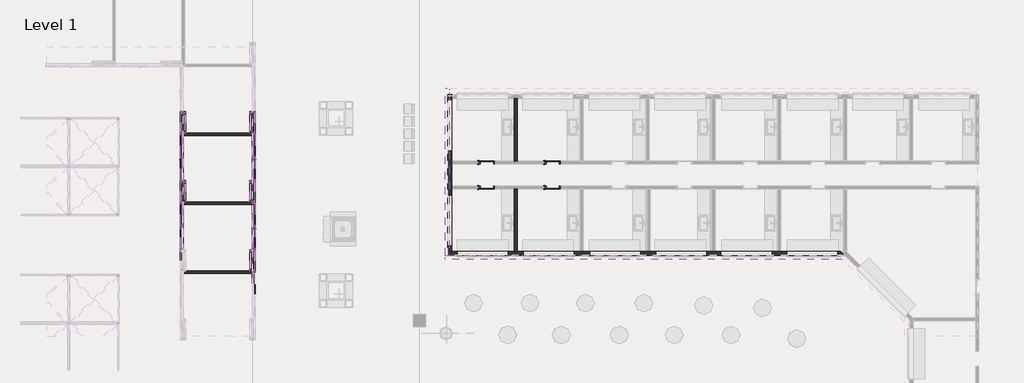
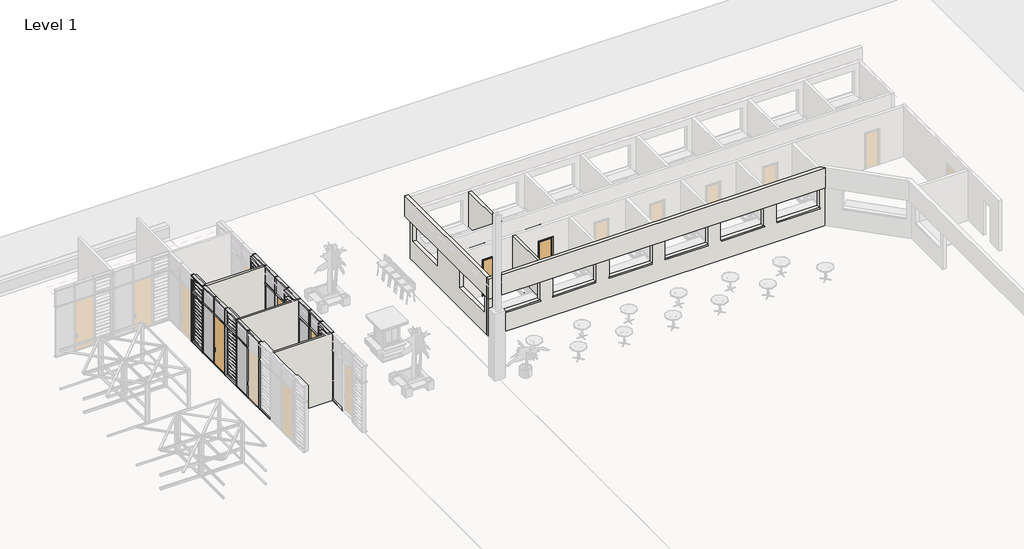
# One storey, part 11 of 32: 70 members, 21 plates, 9 walls, 7 doors.
"""IFC4 building model written with IfcOpenShell, lengths in millimetres."""

from ifc_helpers import new_model, si_unit, frame, origin, place, context, project, spatial, polyline, outline, extrude, faceted_brep, transform, mapped, element, save
from components import curtain_wall_door_single_glass_nz_curtain_wall_door_single_2bf20aac, curtain_wall_door_single_glass_nz_curtain_wall_door_single_ff8afd41, doors_intsgl_1_760x2110mm_a62a0124, doors_intsgl_1_760x2110mm_b66d165a, rectangular_mullion_50x150mm_c4504768, rectangular_mullion_50x150mm_6c7cb899, rectangular_mullion_50x150mm_b0af8bb0, rectangular_mullion_50x150mm_bbc1c4ea, rectangular_mullion_50x150mm_1a36453b, rectangular_mullion_50x150mm_0d540e17, rectangular_mullion_50x150mm_108cdc6f, curtain_wall_panel_louver_20805_curtain_wall_panel_louver_4af505d4, curtain_wall_panel_louver_20805_curtain_wall_panel_louver_14332c5b, curtain_wall_panel_glass_louver_20805_curtain_wall_panel_036772b2, curtain_wall_panel_glass_louver_20805_curtain_wall_panel_0f8e40a1, system_panel_glazed_a5e8ce8b, system_panel_glazed_53fe5bbb, system_panel_solid_585523e5, system_panel_solid_10c0fb46

model = new_model("IFC4")

# Units and contexts
model_context = context("Model", 3, world=origin())
ifc_project = project(units=[si_unit("LENGTHUNIT", "METRE", prefix="MILLI")], contexts=[model_context])

# Site, building, storey
site = spatial("IfcSite", under=ifc_project)
building = spatial("IfcBuilding", under=site)
storey = spatial("IfcBuildingStorey", under=building, Name="Level 1", Elevation=2800.0)

# Doors
placement = place(None, origin())
curtain_wall_door_single_glass_nz_curtain_wall_door_single_shape = curtain_wall_door_single_glass_nz_curtain_wall_door_single_2bf20aac(model_context)
element("IfcDoor", 1, ObjectType="Curtain Wall Door-Single-Glass (NZ) : Curtain Wall Door-Single-Glass (NZ)", at=placement, inside=storey, context=model_context, shape_type="MappedRepresentation", body=[
    mapped(curtain_wall_door_single_glass_nz_curtain_wall_door_single_shape, transform((-55155.3056755, -6055.9199597, 2850.0), x_axis=(0.0, -1.0, 0.0), y_axis=(1.0, 0.0, 0.0), z_axis=(0.0, 0.0, 1.0))),
])
element("IfcDoor", 2, ObjectType="Curtain Wall Door-Single-Glass (NZ) : Curtain Wall Door-Single-Glass (NZ)", at=placement, inside=storey, context=model_context, shape_type="MappedRepresentation", body=[
    mapped(curtain_wall_door_single_glass_nz_curtain_wall_door_single_shape, transform((-55155.3056755, -2755.9199596, 2850.0), x_axis=(0.0, -1.0, 0.0), y_axis=(1.0, 0.0, 0.0), z_axis=(0.0, 0.0, 1.0))),
])
curtain_wall_door_single_glass_nz_curtain_wall_door_single_2_shape = curtain_wall_door_single_glass_nz_curtain_wall_door_single_ff8afd41(model_context)
element("IfcDoor", 3, ObjectType="Curtain Wall Door-Single-Glass (NZ) : Curtain Wall Door-Single-Glass (NZ)", at=placement, inside=storey, context=model_context, shape_type="MappedRepresentation", body=[
    mapped(curtain_wall_door_single_glass_nz_curtain_wall_door_single_2_shape, transform((-58605.3056755, -2755.9199596, 2850.0), x_axis=(0.0, -1.0, 0.0), y_axis=(1.0, 0.0, 0.0), z_axis=(0.0, 0.0, 1.0))),
])
doors_intsgl_1_760x2110mm_shape = doors_intsgl_1_760x2110mm_a62a0124(model_context)
element("IfcDoor", 4, ObjectType="Doors_IntSgl_1 : 760x2110mm", at=placement, inside=storey, context=model_context, shape_type="MappedRepresentation", body=[
    mapped(doors_intsgl_1_760x2110mm_shape, transform((-40871.3056755, -2455.9199596, 2800.0), x_axis=(1.0, 0.0, 0.0), y_axis=(0.0, 1.0, 0.0), z_axis=(0.0, 0.0, 1.0))),
])
element("IfcDoor", 5, ObjectType="Doors_IntSgl_1 : 760x2110mm", at=placement, inside=storey, context=model_context, shape_type="MappedRepresentation", body=[
    mapped(doors_intsgl_1_760x2110mm_shape, transform((-44021.3056755, -2455.9199596, 2800.0), x_axis=(1.0, 0.0, 0.0), y_axis=(0.0, 1.0, 0.0), z_axis=(0.0, 0.0, 1.0))),
])
doors_intsgl_1_760x2110mm_2_shape = doors_intsgl_1_760x2110mm_b66d165a(model_context)
element("IfcDoor", 6, ObjectType="Doors_IntSgl_1 : 760x2110mm", at=placement, inside=storey, context=model_context, shape_type="MappedRepresentation", body=[
    mapped(doors_intsgl_1_760x2110mm_2_shape, transform((-40871.3056755, -3655.9199596, 2800.0), x_axis=(1.0, 0.0, 0.0), y_axis=(0.0, 1.0, 0.0), z_axis=(0.0, 0.0, 1.0))),
])
element("IfcDoor", 7, ObjectType="Doors_IntSgl_1 : 760x2110mm", at=placement, inside=storey, context=model_context, shape_type="MappedRepresentation", body=[
    mapped(doors_intsgl_1_760x2110mm_2_shape, transform((-44021.3056755, -3655.9199596, 2800.0), x_axis=(1.0, 0.0, 0.0), y_axis=(0.0, 1.0, 0.0), z_axis=(0.0, 0.0, 1.0))),
])

# Members
rectangular_mullion_50x150mm_shape = rectangular_mullion_50x150mm_c4504768(model_context)
element("IfcMember", 8, ObjectType="Rectangular Mullion : 50x150mm", at=placement, inside=storey, context=model_context, shape_type="MappedRepresentation", body=[
    mapped(rectangular_mullion_50x150mm_shape, transform((-55155.3056755, -5480.9199597, 5800.0), x_axis=(0.0, 0.0, 1.0), y_axis=(-1.0, 0.0, 0.0), z_axis=(0.0, -1.0, 0.0))),
])
element("IfcMember", 9, ObjectType="Rectangular Mullion : 50x150mm", at=placement, inside=storey, context=model_context, shape_type="MappedRepresentation", body=[
    mapped(rectangular_mullion_50x150mm_shape, transform((-55155.3056755, -7680.9199596, 5800.0), x_axis=(0.0, 0.0, 1.0), y_axis=(-1.0, 0.0, 0.0), z_axis=(0.0, -1.0, 0.0))),
])
element("IfcMember", 10, ObjectType="Rectangular Mullion : 50x150mm", at=placement, inside=storey, context=model_context, shape_type="MappedRepresentation", body=[
    mapped(rectangular_mullion_50x150mm_shape, transform((-55155.3056755, -6580.9199596, 5800.0), x_axis=(0.0, 0.0, 1.0), y_axis=(-1.0, 0.0, 0.0), z_axis=(0.0, -1.0, 0.0))),
])
element("IfcMember", 11, ObjectType="Rectangular Mullion : 50x150mm", at=placement, inside=storey, context=model_context, shape_type="MappedRepresentation", body=[
    mapped(rectangular_mullion_50x150mm_shape, transform((-55155.3056755, -4380.9199596, 5800.0), x_axis=(0.0, 0.0, 1.0), y_axis=(-1.0, 0.0, 0.0), z_axis=(0.0, -1.0, 0.0))),
])
element("IfcMember", 12, ObjectType="Rectangular Mullion : 50x150mm", at=placement, inside=storey, context=model_context, shape_type="MappedRepresentation", body=[
    mapped(rectangular_mullion_50x150mm_shape, transform((-55155.3056755, -3280.9199596, 5800.0), x_axis=(0.0, 0.0, 1.0), y_axis=(-1.0, 0.0, 0.0), z_axis=(0.0, -1.0, 0.0))),
])
element("IfcMember", 13, ObjectType="Rectangular Mullion : 50x150mm", at=placement, inside=storey, context=model_context, shape_type="MappedRepresentation", body=[
    mapped(rectangular_mullion_50x150mm_shape, transform((-55155.3056755, -1080.9199596, 5800.0), x_axis=(0.0, 0.0, 1.0), y_axis=(-1.0, 0.0, 0.0), z_axis=(0.0, -1.0, 0.0))),
])
element("IfcMember", 14, ObjectType="Rectangular Mullion : 50x150mm", at=placement, inside=storey, context=model_context, shape_type="MappedRepresentation", body=[
    mapped(rectangular_mullion_50x150mm_shape, transform((-55155.3056755, -2180.9199596, 5800.0), x_axis=(0.0, 0.0, 1.0), y_axis=(-1.0, 0.0, 0.0), z_axis=(0.0, -1.0, 0.0))),
])
rectangular_mullion_50x150mm_2_shape = rectangular_mullion_50x150mm_6c7cb899(model_context)
element("IfcMember", 15, ObjectType="Rectangular Mullion : 50x150mm", at=placement, inside=storey, context=model_context, shape_type="MappedRepresentation", body=[
    mapped(rectangular_mullion_50x150mm_2_shape, transform((-55155.3056755, -5505.9199597, 2800.0), x_axis=(0.0, -1.0, 0.0), y_axis=(-1.0, 0.0, 0.0), z_axis=(0.0, 0.0, -1.0))),
])
element("IfcMember", 16, ObjectType="Rectangular Mullion : 50x150mm", at=placement, inside=storey, context=model_context, shape_type="MappedRepresentation", body=[
    mapped(rectangular_mullion_50x150mm_2_shape, transform((-55155.3056755, -6605.9199596, 2800.0), x_axis=(0.0, -1.0, 0.0), y_axis=(-1.0, 0.0, 0.0), z_axis=(0.0, 0.0, -1.0))),
])
element("IfcMember", 17, ObjectType="Rectangular Mullion : 50x150mm", at=placement, inside=storey, context=model_context, shape_type="MappedRepresentation", body=[
    mapped(rectangular_mullion_50x150mm_2_shape, transform((-55155.3056755, -4405.9199596, 2800.0), x_axis=(0.0, -1.0, 0.0), y_axis=(-1.0, 0.0, 0.0), z_axis=(0.0, 0.0, -1.0))),
])
element("IfcMember", 18, ObjectType="Rectangular Mullion : 50x150mm", at=placement, inside=storey, context=model_context, shape_type="MappedRepresentation", body=[
    mapped(rectangular_mullion_50x150mm_2_shape, transform((-55155.3056755, -7705.9199596, 2800.0), x_axis=(0.0, -1.0, 0.0), y_axis=(-1.0, 0.0, 0.0), z_axis=(0.0, 0.0, -1.0))),
])
element("IfcMember", 19, ObjectType="Rectangular Mullion : 50x150mm", at=placement, inside=storey, context=model_context, shape_type="MappedRepresentation", body=[
    mapped(rectangular_mullion_50x150mm_2_shape, transform((-55155.3056755, -3305.9199596, 2800.0), x_axis=(0.0, -1.0, 0.0), y_axis=(-1.0, 0.0, 0.0), z_axis=(0.0, 0.0, -1.0))),
])
element("IfcMember", 20, ObjectType="Rectangular Mullion : 50x150mm", at=placement, inside=storey, context=model_context, shape_type="MappedRepresentation", body=[
    mapped(rectangular_mullion_50x150mm_2_shape, transform((-55155.3056755, -2205.9199596, 2800.0), x_axis=(0.0, -1.0, 0.0), y_axis=(-1.0, 0.0, 0.0), z_axis=(0.0, 0.0, -1.0))),
])
element("IfcMember", 21, ObjectType="Rectangular Mullion : 50x150mm", at=placement, inside=storey, context=model_context, shape_type="MappedRepresentation", body=[
    mapped(rectangular_mullion_50x150mm_2_shape, transform((-55155.3056755, -1105.9199596, 2800.0), x_axis=(0.0, -1.0, 0.0), y_axis=(-1.0, 0.0, 0.0), z_axis=(0.0, 0.0, -1.0))),
])
element("IfcMember", 22, ObjectType="Rectangular Mullion : 50x150mm", at=placement, inside=storey, context=model_context, shape_type="MappedRepresentation", body=[
    mapped(rectangular_mullion_50x150mm_2_shape, transform((-55155.3056755, -5.9199596, 2800.0), x_axis=(0.0, -1.0, 0.0), y_axis=(-1.0, 0.0, 0.0), z_axis=(0.0, 0.0, -1.0))),
])
rectangular_mullion_50x150mm_3_shape = rectangular_mullion_50x150mm_b0af8bb0(model_context)
element("IfcMember", 23, ObjectType="Rectangular Mullion : 50x150mm", at=placement, inside=storey, context=model_context, shape_type="MappedRepresentation", body=[
    mapped(rectangular_mullion_50x150mm_3_shape, transform((-55155.3056755, -4430.9199596, 2800.0), x_axis=(0.0, 0.0, -1.0), y_axis=(-1.0, 0.0, 0.0), z_axis=(0.0, 1.0, 0.0))),
])
element("IfcMember", 24, ObjectType="Rectangular Mullion : 50x150mm", at=placement, inside=storey, context=model_context, shape_type="MappedRepresentation", body=[
    mapped(rectangular_mullion_50x150mm_3_shape, transform((-55155.3056755, -7730.9199596, 2800.0), x_axis=(0.0, 0.0, -1.0), y_axis=(-1.0, 0.0, 0.0), z_axis=(0.0, 1.0, 0.0))),
])
element("IfcMember", 25, ObjectType="Rectangular Mullion : 50x150mm", at=placement, inside=storey, context=model_context, shape_type="MappedRepresentation", body=[
    mapped(rectangular_mullion_50x150mm_3_shape, transform((-55155.3056755, -6630.9199596, 2800.0), x_axis=(0.0, 0.0, -1.0), y_axis=(-1.0, 0.0, 0.0), z_axis=(0.0, 1.0, 0.0))),
])
element("IfcMember", 26, ObjectType="Rectangular Mullion : 50x150mm", at=placement, inside=storey, context=model_context, shape_type="MappedRepresentation", body=[
    mapped(rectangular_mullion_50x150mm_3_shape, transform((-55155.3056755, -5530.9199597, 2800.0), x_axis=(0.0, 0.0, -1.0), y_axis=(-1.0, 0.0, 0.0), z_axis=(0.0, 1.0, 0.0))),
])
element("IfcMember", 27, ObjectType="Rectangular Mullion : 50x150mm", at=placement, inside=storey, context=model_context, shape_type="MappedRepresentation", body=[
    mapped(rectangular_mullion_50x150mm_3_shape, transform((-55155.3056755, -3330.9199596, 2800.0), x_axis=(0.0, 0.0, -1.0), y_axis=(-1.0, 0.0, 0.0), z_axis=(0.0, 1.0, 0.0))),
])
element("IfcMember", 28, ObjectType="Rectangular Mullion : 50x150mm", at=placement, inside=storey, context=model_context, shape_type="MappedRepresentation", body=[
    mapped(rectangular_mullion_50x150mm_3_shape, transform((-55155.3056755, -2230.9199596, 2800.0), x_axis=(0.0, 0.0, -1.0), y_axis=(-1.0, 0.0, 0.0), z_axis=(0.0, 1.0, 0.0))),
])
element("IfcMember", 29, ObjectType="Rectangular Mullion : 50x150mm", at=placement, inside=storey, context=model_context, shape_type="MappedRepresentation", body=[
    mapped(rectangular_mullion_50x150mm_3_shape, transform((-55155.3056755, -30.9199596, 2800.0), x_axis=(0.0, 0.0, -1.0), y_axis=(-1.0, 0.0, 0.0), z_axis=(0.0, 1.0, 0.0))),
])
element("IfcMember", 30, ObjectType="Rectangular Mullion : 50x150mm", at=placement, inside=storey, context=model_context, shape_type="MappedRepresentation", body=[
    mapped(rectangular_mullion_50x150mm_3_shape, transform((-55155.3056755, -1130.9199596, 2800.0), x_axis=(0.0, 0.0, -1.0), y_axis=(-1.0, 0.0, 0.0), z_axis=(0.0, 1.0, 0.0))),
])
rectangular_mullion_50x150mm_4_shape = rectangular_mullion_50x150mm_bbc1c4ea(model_context)
element("IfcMember", 31, ObjectType="Rectangular Mullion : 50x150mm", at=placement, inside=storey, context=model_context, shape_type="MappedRepresentation", body=[
    mapped(rectangular_mullion_50x150mm_4_shape, transform((-55155.3056755, -5505.9199597, 5800.0), x_axis=(0.0, -1.0, 0.0), y_axis=(-1.0, 0.0, 0.0), z_axis=(0.0, 0.0, -1.0))),
])
element("IfcMember", 32, ObjectType="Rectangular Mullion : 50x150mm", at=placement, inside=storey, context=model_context, shape_type="MappedRepresentation", body=[
    mapped(rectangular_mullion_50x150mm_4_shape, transform((-55155.3056755, -6605.9199596, 5800.0), x_axis=(0.0, -1.0, 0.0), y_axis=(-1.0, 0.0, 0.0), z_axis=(0.0, 0.0, -1.0))),
])
element("IfcMember", 33, ObjectType="Rectangular Mullion : 50x150mm", at=placement, inside=storey, context=model_context, shape_type="MappedRepresentation", body=[
    mapped(rectangular_mullion_50x150mm_4_shape, transform((-55155.3056755, -4405.9199596, 5800.0), x_axis=(0.0, -1.0, 0.0), y_axis=(-1.0, 0.0, 0.0), z_axis=(0.0, 0.0, -1.0))),
])
element("IfcMember", 34, ObjectType="Rectangular Mullion : 50x150mm", at=placement, inside=storey, context=model_context, shape_type="MappedRepresentation", body=[
    mapped(rectangular_mullion_50x150mm_4_shape, transform((-55155.3056755, -7705.9199596, 5800.0), x_axis=(0.0, -1.0, 0.0), y_axis=(-1.0, 0.0, 0.0), z_axis=(0.0, 0.0, -1.0))),
])
element("IfcMember", 35, ObjectType="Rectangular Mullion : 50x150mm", at=placement, inside=storey, context=model_context, shape_type="MappedRepresentation", body=[
    mapped(rectangular_mullion_50x150mm_4_shape, transform((-55155.3056755, -3305.9199596, 5800.0), x_axis=(0.0, -1.0, 0.0), y_axis=(-1.0, 0.0, 0.0), z_axis=(0.0, 0.0, -1.0))),
])
element("IfcMember", 36, ObjectType="Rectangular Mullion : 50x150mm", at=placement, inside=storey, context=model_context, shape_type="MappedRepresentation", body=[
    mapped(rectangular_mullion_50x150mm_4_shape, transform((-55155.3056755, -2205.9199596, 5800.0), x_axis=(0.0, -1.0, 0.0), y_axis=(-1.0, 0.0, 0.0), z_axis=(0.0, 0.0, -1.0))),
])
element("IfcMember", 37, ObjectType="Rectangular Mullion : 50x150mm", at=placement, inside=storey, context=model_context, shape_type="MappedRepresentation", body=[
    mapped(rectangular_mullion_50x150mm_4_shape, transform((-55155.3056755, -1105.9199596, 5800.0), x_axis=(0.0, -1.0, 0.0), y_axis=(-1.0, 0.0, 0.0), z_axis=(0.0, 0.0, -1.0))),
])
element("IfcMember", 38, ObjectType="Rectangular Mullion : 50x150mm", at=placement, inside=storey, context=model_context, shape_type="MappedRepresentation", body=[
    mapped(rectangular_mullion_50x150mm_4_shape, transform((-55155.3056755, -5.9199596, 5800.0), x_axis=(0.0, -1.0, 0.0), y_axis=(-1.0, 0.0, 0.0), z_axis=(0.0, 0.0, -1.0))),
])
rectangular_mullion_50x150mm_5_shape = rectangular_mullion_50x150mm_1a36453b(model_context)
element("IfcMember", 39, ObjectType="Rectangular Mullion : 50x150mm", at=placement, inside=storey, context=model_context, shape_type="MappedRepresentation", body=[
    mapped(rectangular_mullion_50x150mm_5_shape, transform((-55155.3056755, -4380.9199596, 6800.0), x_axis=(0.0, 0.0, 1.0), y_axis=(-1.0, 0.0, 0.0), z_axis=(0.0, -1.0, 0.0))),
])
element("IfcMember", 40, ObjectType="Rectangular Mullion : 50x150mm", at=placement, inside=storey, context=model_context, shape_type="MappedRepresentation", body=[
    mapped(rectangular_mullion_50x150mm_5_shape, transform((-55155.3056755, -7680.9199596, 6800.0), x_axis=(0.0, 0.0, 1.0), y_axis=(-1.0, 0.0, 0.0), z_axis=(0.0, -1.0, 0.0))),
])
element("IfcMember", 41, ObjectType="Rectangular Mullion : 50x150mm", at=placement, inside=storey, context=model_context, shape_type="MappedRepresentation", body=[
    mapped(rectangular_mullion_50x150mm_5_shape, transform((-55155.3056755, -6580.9199596, 6800.0), x_axis=(0.0, 0.0, 1.0), y_axis=(-1.0, 0.0, 0.0), z_axis=(0.0, -1.0, 0.0))),
])
element("IfcMember", 42, ObjectType="Rectangular Mullion : 50x150mm", at=placement, inside=storey, context=model_context, shape_type="MappedRepresentation", body=[
    mapped(rectangular_mullion_50x150mm_5_shape, transform((-55155.3056755, -5480.9199597, 6800.0), x_axis=(0.0, 0.0, 1.0), y_axis=(-1.0, 0.0, 0.0), z_axis=(0.0, -1.0, 0.0))),
])
element("IfcMember", 43, ObjectType="Rectangular Mullion : 50x150mm", at=placement, inside=storey, context=model_context, shape_type="MappedRepresentation", body=[
    mapped(rectangular_mullion_50x150mm_5_shape, transform((-55155.3056755, -3280.9199596, 6800.0), x_axis=(0.0, 0.0, 1.0), y_axis=(-1.0, 0.0, 0.0), z_axis=(0.0, -1.0, 0.0))),
])
element("IfcMember", 44, ObjectType="Rectangular Mullion : 50x150mm", at=placement, inside=storey, context=model_context, shape_type="MappedRepresentation", body=[
    mapped(rectangular_mullion_50x150mm_5_shape, transform((-55155.3056755, -2180.9199596, 6800.0), x_axis=(0.0, 0.0, 1.0), y_axis=(-1.0, 0.0, 0.0), z_axis=(0.0, -1.0, 0.0))),
])
element("IfcMember", 45, ObjectType="Rectangular Mullion : 50x150mm", at=placement, inside=storey, context=model_context, shape_type="MappedRepresentation", body=[
    mapped(rectangular_mullion_50x150mm_5_shape, transform((-55155.3056755, -1080.9199596, 6800.0), x_axis=(0.0, 0.0, 1.0), y_axis=(-1.0, 0.0, 0.0), z_axis=(0.0, -1.0, 0.0))),
])
element("IfcMember", 46, ObjectType="Rectangular Mullion : 50x150mm", at=placement, inside=storey, context=model_context, shape_type="MappedRepresentation", body=[
    mapped(rectangular_mullion_50x150mm_4_shape, transform((-58605.3056755, -5505.9199597, 5800.0), x_axis=(0.0, -1.0, 0.0), y_axis=(-1.0, 0.0, 0.0), z_axis=(0.0, 0.0, -1.0))),
])
element("IfcMember", 47, ObjectType="Rectangular Mullion : 50x150mm", at=placement, inside=storey, context=model_context, shape_type="MappedRepresentation", body=[
    mapped(rectangular_mullion_50x150mm_4_shape, transform((-58605.3056755, -6605.9199596, 5800.0), x_axis=(0.0, -1.0, 0.0), y_axis=(-1.0, 0.0, 0.0), z_axis=(0.0, 0.0, -1.0))),
])
element("IfcMember", 48, ObjectType="Rectangular Mullion : 50x150mm", at=placement, inside=storey, context=model_context, shape_type="MappedRepresentation", body=[
    mapped(rectangular_mullion_50x150mm_4_shape, transform((-58605.3056755, -4405.9199596, 5800.0), x_axis=(0.0, -1.0, 0.0), y_axis=(-1.0, 0.0, 0.0), z_axis=(0.0, 0.0, -1.0))),
])
element("IfcMember", 49, ObjectType="Rectangular Mullion : 50x150mm", at=placement, inside=storey, context=model_context, shape_type="MappedRepresentation", body=[
    mapped(rectangular_mullion_50x150mm_4_shape, transform((-58605.3056755, -3305.9199596, 5800.0), x_axis=(0.0, -1.0, 0.0), y_axis=(-1.0, 0.0, 0.0), z_axis=(0.0, 0.0, -1.0))),
])
element("IfcMember", 50, ObjectType="Rectangular Mullion : 50x150mm", at=placement, inside=storey, context=model_context, shape_type="MappedRepresentation", body=[
    mapped(rectangular_mullion_50x150mm_4_shape, transform((-58605.3056755, -2205.9199596, 5800.0), x_axis=(0.0, -1.0, 0.0), y_axis=(-1.0, 0.0, 0.0), z_axis=(0.0, 0.0, -1.0))),
])
element("IfcMember", 51, ObjectType="Rectangular Mullion : 50x150mm", at=placement, inside=storey, context=model_context, shape_type="MappedRepresentation", body=[
    mapped(rectangular_mullion_50x150mm_4_shape, transform((-58605.3056755, -1105.9199596, 5800.0), x_axis=(0.0, -1.0, 0.0), y_axis=(-1.0, 0.0, 0.0), z_axis=(0.0, 0.0, -1.0))),
])
element("IfcMember", 52, ObjectType="Rectangular Mullion : 50x150mm", at=placement, inside=storey, context=model_context, shape_type="MappedRepresentation", body=[
    mapped(rectangular_mullion_50x150mm_4_shape, transform((-58605.3056755, -5.9199596, 5800.0), x_axis=(0.0, -1.0, 0.0), y_axis=(-1.0, 0.0, 0.0), z_axis=(0.0, 0.0, -1.0))),
])
element("IfcMember", 53, ObjectType="Rectangular Mullion : 50x150mm", at=placement, inside=storey, context=model_context, shape_type="MappedRepresentation", body=[
    mapped(rectangular_mullion_50x150mm_2_shape, transform((-58605.3056755, -5505.9199597, 2800.0), x_axis=(0.0, -1.0, 0.0), y_axis=(-1.0, 0.0, 0.0), z_axis=(0.0, 0.0, -1.0))),
])
element("IfcMember", 54, ObjectType="Rectangular Mullion : 50x150mm", at=placement, inside=storey, context=model_context, shape_type="MappedRepresentation", body=[
    mapped(rectangular_mullion_50x150mm_2_shape, transform((-58605.3056755, -6605.9199596, 2800.0), x_axis=(0.0, -1.0, 0.0), y_axis=(-1.0, 0.0, 0.0), z_axis=(0.0, 0.0, -1.0))),
])
element("IfcMember", 55, ObjectType="Rectangular Mullion : 50x150mm", at=placement, inside=storey, context=model_context, shape_type="MappedRepresentation", body=[
    mapped(rectangular_mullion_50x150mm_2_shape, transform((-58605.3056755, -4405.9199596, 2800.0), x_axis=(0.0, -1.0, 0.0), y_axis=(-1.0, 0.0, 0.0), z_axis=(0.0, 0.0, -1.0))),
])
element("IfcMember", 56, ObjectType="Rectangular Mullion : 50x150mm", at=placement, inside=storey, context=model_context, shape_type="MappedRepresentation", body=[
    mapped(rectangular_mullion_50x150mm_2_shape, transform((-58605.3056755, -3305.9199596, 2800.0), x_axis=(0.0, -1.0, 0.0), y_axis=(-1.0, 0.0, 0.0), z_axis=(0.0, 0.0, -1.0))),
])
element("IfcMember", 57, ObjectType="Rectangular Mullion : 50x150mm", at=placement, inside=storey, context=model_context, shape_type="MappedRepresentation", body=[
    mapped(rectangular_mullion_50x150mm_2_shape, transform((-58605.3056755, -2205.9199596, 2800.0), x_axis=(0.0, -1.0, 0.0), y_axis=(-1.0, 0.0, 0.0), z_axis=(0.0, 0.0, -1.0))),
])
element("IfcMember", 58, ObjectType="Rectangular Mullion : 50x150mm", at=placement, inside=storey, context=model_context, shape_type="MappedRepresentation", body=[
    mapped(rectangular_mullion_50x150mm_2_shape, transform((-58605.3056755, -1105.9199596, 2800.0), x_axis=(0.0, -1.0, 0.0), y_axis=(-1.0, 0.0, 0.0), z_axis=(0.0, 0.0, -1.0))),
])
element("IfcMember", 59, ObjectType="Rectangular Mullion : 50x150mm", at=placement, inside=storey, context=model_context, shape_type="MappedRepresentation", body=[
    mapped(rectangular_mullion_50x150mm_2_shape, transform((-58605.3056755, -5.9199596, 2800.0), x_axis=(0.0, -1.0, 0.0), y_axis=(-1.0, 0.0, 0.0), z_axis=(0.0, 0.0, -1.0))),
])
rectangular_mullion_50x150mm_6_shape = rectangular_mullion_50x150mm_0d540e17(model_context)
element("IfcMember", 60, ObjectType="Rectangular Mullion : 50x150mm", at=placement, inside=storey, context=model_context, shape_type="MappedRepresentation", body=[
    mapped(rectangular_mullion_50x150mm_6_shape, transform((-58605.3056755, -5480.9199597, 5800.0), x_axis=(0.0, 0.0, 1.0), y_axis=(-1.0, 0.0, 0.0), z_axis=(0.0, -1.0, 0.0))),
])
element("IfcMember", 61, ObjectType="Rectangular Mullion : 50x150mm", at=placement, inside=storey, context=model_context, shape_type="MappedRepresentation", body=[
    mapped(rectangular_mullion_50x150mm_6_shape, transform((-58605.3056755, -4380.9199596, 5800.0), x_axis=(0.0, 0.0, 1.0), y_axis=(-1.0, 0.0, 0.0), z_axis=(0.0, -1.0, 0.0))),
])
element("IfcMember", 62, ObjectType="Rectangular Mullion : 50x150mm", at=placement, inside=storey, context=model_context, shape_type="MappedRepresentation", body=[
    mapped(rectangular_mullion_50x150mm_6_shape, transform((-58605.3056755, -3280.9199596, 5800.0), x_axis=(0.0, 0.0, 1.0), y_axis=(-1.0, 0.0, 0.0), z_axis=(0.0, -1.0, 0.0))),
])
element("IfcMember", 63, ObjectType="Rectangular Mullion : 50x150mm", at=placement, inside=storey, context=model_context, shape_type="MappedRepresentation", body=[
    mapped(rectangular_mullion_50x150mm_6_shape, transform((-58605.3056755, -1080.9199596, 5800.0), x_axis=(0.0, 0.0, 1.0), y_axis=(-1.0, 0.0, 0.0), z_axis=(0.0, -1.0, 0.0))),
])
element("IfcMember", 64, ObjectType="Rectangular Mullion : 50x150mm", at=placement, inside=storey, context=model_context, shape_type="MappedRepresentation", body=[
    mapped(rectangular_mullion_50x150mm_6_shape, transform((-58605.3056755, -2180.9199596, 5800.0), x_axis=(0.0, 0.0, 1.0), y_axis=(-1.0, 0.0, 0.0), z_axis=(0.0, -1.0, 0.0))),
])
rectangular_mullion_50x150mm_7_shape = rectangular_mullion_50x150mm_108cdc6f(model_context)
element("IfcMember", 65, ObjectType="Rectangular Mullion : 50x150mm", at=placement, inside=storey, context=model_context, shape_type="MappedRepresentation", body=[
    mapped(rectangular_mullion_50x150mm_7_shape, transform((-58605.3056755, -4430.9199596, 2800.0), x_axis=(0.0, 0.0, -1.0), y_axis=(-1.0, 0.0, 0.0), z_axis=(0.0, 1.0, 0.0))),
])
element("IfcMember", 66, ObjectType="Rectangular Mullion : 50x150mm", at=placement, inside=storey, context=model_context, shape_type="MappedRepresentation", body=[
    mapped(rectangular_mullion_50x150mm_7_shape, transform((-58605.3056755, -6630.9199596, 2800.0), x_axis=(0.0, 0.0, -1.0), y_axis=(-1.0, 0.0, 0.0), z_axis=(0.0, 1.0, 0.0))),
])
element("IfcMember", 67, ObjectType="Rectangular Mullion : 50x150mm", at=placement, inside=storey, context=model_context, shape_type="MappedRepresentation", body=[
    mapped(rectangular_mullion_50x150mm_7_shape, transform((-58605.3056755, -5530.9199597, 2800.0), x_axis=(0.0, 0.0, -1.0), y_axis=(-1.0, 0.0, 0.0), z_axis=(0.0, 1.0, 0.0))),
])
element("IfcMember", 68, ObjectType="Rectangular Mullion : 50x150mm", at=placement, inside=storey, context=model_context, shape_type="MappedRepresentation", body=[
    mapped(rectangular_mullion_50x150mm_7_shape, transform((-58605.3056755, -3330.9199596, 2800.0), x_axis=(0.0, 0.0, -1.0), y_axis=(-1.0, 0.0, 0.0), z_axis=(0.0, 1.0, 0.0))),
])
element("IfcMember", 69, ObjectType="Rectangular Mullion : 50x150mm", at=placement, inside=storey, context=model_context, shape_type="MappedRepresentation", body=[
    mapped(rectangular_mullion_50x150mm_7_shape, transform((-58605.3056755, -2230.9199596, 2800.0), x_axis=(0.0, 0.0, -1.0), y_axis=(-1.0, 0.0, 0.0), z_axis=(0.0, 1.0, 0.0))),
])
element("IfcMember", 70, ObjectType="Rectangular Mullion : 50x150mm", at=placement, inside=storey, context=model_context, shape_type="MappedRepresentation", body=[
    mapped(rectangular_mullion_50x150mm_7_shape, transform((-58605.3056755, -30.9199596, 2800.0), x_axis=(0.0, 0.0, -1.0), y_axis=(-1.0, 0.0, 0.0), z_axis=(0.0, 1.0, 0.0))),
])
element("IfcMember", 71, ObjectType="Rectangular Mullion : 50x150mm", at=placement, inside=storey, context=model_context, shape_type="MappedRepresentation", body=[
    mapped(rectangular_mullion_50x150mm_7_shape, transform((-58605.3056755, -1130.9199596, 2800.0), x_axis=(0.0, 0.0, -1.0), y_axis=(-1.0, 0.0, 0.0), z_axis=(0.0, 1.0, 0.0))),
])
element("IfcMember", 72, ObjectType="Rectangular Mullion : 50x150mm", at=placement, inside=storey, context=model_context, shape_type="MappedRepresentation", body=[
    mapped(rectangular_mullion_50x150mm_5_shape, transform((-58605.3056755, -4380.9199596, 6800.0), x_axis=(0.0, 0.0, 1.0), y_axis=(-1.0, 0.0, 0.0), z_axis=(0.0, -1.0, 0.0))),
])
element("IfcMember", 73, ObjectType="Rectangular Mullion : 50x150mm", at=placement, inside=storey, context=model_context, shape_type="MappedRepresentation", body=[
    mapped(rectangular_mullion_50x150mm_5_shape, transform((-58605.3056755, -6580.9199596, 6800.0), x_axis=(0.0, 0.0, 1.0), y_axis=(-1.0, 0.0, 0.0), z_axis=(0.0, -1.0, 0.0))),
])
element("IfcMember", 74, ObjectType="Rectangular Mullion : 50x150mm", at=placement, inside=storey, context=model_context, shape_type="MappedRepresentation", body=[
    mapped(rectangular_mullion_50x150mm_5_shape, transform((-58605.3056755, -5480.9199597, 6800.0), x_axis=(0.0, 0.0, 1.0), y_axis=(-1.0, 0.0, 0.0), z_axis=(0.0, -1.0, 0.0))),
])
element("IfcMember", 75, ObjectType="Rectangular Mullion : 50x150mm", at=placement, inside=storey, context=model_context, shape_type="MappedRepresentation", body=[
    mapped(rectangular_mullion_50x150mm_5_shape, transform((-58605.3056755, -3280.9199596, 6800.0), x_axis=(0.0, 0.0, 1.0), y_axis=(-1.0, 0.0, 0.0), z_axis=(0.0, -1.0, 0.0))),
])
element("IfcMember", 76, ObjectType="Rectangular Mullion : 50x150mm", at=placement, inside=storey, context=model_context, shape_type="MappedRepresentation", body=[
    mapped(rectangular_mullion_50x150mm_5_shape, transform((-58605.3056755, -2180.9199596, 6800.0), x_axis=(0.0, 0.0, 1.0), y_axis=(-1.0, 0.0, 0.0), z_axis=(0.0, -1.0, 0.0))),
])
element("IfcMember", 77, ObjectType="Rectangular Mullion : 50x150mm", at=placement, inside=storey, context=model_context, shape_type="MappedRepresentation", body=[
    mapped(rectangular_mullion_50x150mm_5_shape, transform((-58605.3056755, -1080.9199596, 6800.0), x_axis=(0.0, 0.0, 1.0), y_axis=(-1.0, 0.0, 0.0), z_axis=(0.0, -1.0, 0.0))),
])

# Plates
curtain_wall_panel_louver_20805_curtain_wall_panel_louver_shape = curtain_wall_panel_louver_20805_curtain_wall_panel_louver_4af505d4(model_context)
element("IfcPlate", 78, ObjectType="Curtain_wall_panel_-_Louver_20805 : Curtain_wall_panel_-_Louver_20805", at=placement, inside=storey, context=model_context, shape_type="MappedRepresentation", body=[
    mapped(curtain_wall_panel_louver_20805_curtain_wall_panel_louver_shape, transform((-55155.3056755, -7155.9199596, 5825.0), x_axis=(0.0, -1.0, 0.0), y_axis=(1.0, 0.0, 0.0), z_axis=(0.0, 0.0, 1.0))),
])
element("IfcPlate", 79, ObjectType="Curtain_wall_panel_-_Louver_20805 : Curtain_wall_panel_-_Louver_20805", at=placement, inside=storey, context=model_context, shape_type="MappedRepresentation", body=[
    mapped(curtain_wall_panel_louver_20805_curtain_wall_panel_louver_shape, transform((-55155.3056755, -3855.9199596, 5825.0), x_axis=(0.0, -1.0, 0.0), y_axis=(1.0, 0.0, 0.0), z_axis=(0.0, 0.0, 1.0))),
])
element("IfcPlate", 80, ObjectType="Curtain_wall_panel_-_Louver_20805 : Curtain_wall_panel_-_Louver_20805", at=placement, inside=storey, context=model_context, shape_type="MappedRepresentation", body=[
    mapped(curtain_wall_panel_louver_20805_curtain_wall_panel_louver_shape, transform((-55155.3056755, -555.9199596, 5825.0), x_axis=(0.0, -1.0, 0.0), y_axis=(1.0, 0.0, 0.0), z_axis=(0.0, 0.0, 1.0))),
])
curtain_wall_panel_louver_20805_curtain_wall_panel_louver_2_shape = curtain_wall_panel_louver_20805_curtain_wall_panel_louver_14332c5b(model_context)
element("IfcPlate", 81, ObjectType="Curtain_wall_panel_-_Louver_20805 : Curtain_wall_panel_-_Louver_20805", at=placement, inside=storey, context=model_context, shape_type="MappedRepresentation", body=[
    mapped(curtain_wall_panel_louver_20805_curtain_wall_panel_louver_2_shape, transform((-58605.3056755, -3855.9199596, 5825.0), x_axis=(0.0, -1.0, 0.0), y_axis=(1.0, 0.0, 0.0), z_axis=(0.0, 0.0, 1.0))),
])
element("IfcPlate", 82, ObjectType="Curtain_wall_panel_-_Louver_20805 : Curtain_wall_panel_-_Louver_20805", at=placement, inside=storey, context=model_context, shape_type="MappedRepresentation", body=[
    mapped(curtain_wall_panel_louver_20805_curtain_wall_panel_louver_2_shape, transform((-58605.3056755, -555.9199596, 5825.0), x_axis=(0.0, -1.0, 0.0), y_axis=(1.0, 0.0, 0.0), z_axis=(0.0, 0.0, 1.0))),
])
curtain_wall_panel_glass_louver_20805_curtain_wall_panel_shape = curtain_wall_panel_glass_louver_20805_curtain_wall_panel_036772b2(model_context)
element("IfcPlate", 83, ObjectType="Curtain_wall_panel_glass_Louver_20805 : Curtain_wall_panel_glass_Louver_20805", at=placement, inside=storey, context=model_context, shape_type="MappedRepresentation", body=[
    mapped(curtain_wall_panel_glass_louver_20805_curtain_wall_panel_shape, transform((-55155.3056755, -7155.9199596, 2850.0), x_axis=(0.0, -1.0, 0.0), y_axis=(1.0, 0.0, 0.0), z_axis=(0.0, 0.0, 1.0))),
])
element("IfcPlate", 84, ObjectType="Curtain_wall_panel_glass_Louver_20805 : Curtain_wall_panel_glass_Louver_20805", at=placement, inside=storey, context=model_context, shape_type="MappedRepresentation", body=[
    mapped(curtain_wall_panel_glass_louver_20805_curtain_wall_panel_shape, transform((-55155.3056755, -3855.9199596, 2850.0), x_axis=(0.0, -1.0, 0.0), y_axis=(1.0, 0.0, 0.0), z_axis=(0.0, 0.0, 1.0))),
])
element("IfcPlate", 85, ObjectType="Curtain_wall_panel_glass_Louver_20805 : Curtain_wall_panel_glass_Louver_20805", at=placement, inside=storey, context=model_context, shape_type="MappedRepresentation", body=[
    mapped(curtain_wall_panel_glass_louver_20805_curtain_wall_panel_shape, transform((-55155.3056755, -555.9199596, 2850.0), x_axis=(0.0, -1.0, 0.0), y_axis=(1.0, 0.0, 0.0), z_axis=(0.0, 0.0, 1.0))),
])
curtain_wall_panel_glass_louver_20805_curtain_wall_panel_2_shape = curtain_wall_panel_glass_louver_20805_curtain_wall_panel_0f8e40a1(model_context)
element("IfcPlate", 86, ObjectType="Curtain_wall_panel_glass_Louver_20805 : Curtain_wall_panel_glass_Louver_20805", at=placement, inside=storey, context=model_context, shape_type="MappedRepresentation", body=[
    mapped(curtain_wall_panel_glass_louver_20805_curtain_wall_panel_2_shape, transform((-58605.3056755, -3855.9199596, 2850.0), x_axis=(0.0, -1.0, 0.0), y_axis=(1.0, 0.0, 0.0), z_axis=(0.0, 0.0, 1.0))),
])
element("IfcPlate", 87, ObjectType="Curtain_wall_panel_glass_Louver_20805 : Curtain_wall_panel_glass_Louver_20805", at=placement, inside=storey, context=model_context, shape_type="MappedRepresentation", body=[
    mapped(curtain_wall_panel_glass_louver_20805_curtain_wall_panel_2_shape, transform((-58605.3056755, -555.9199596, 2850.0), x_axis=(0.0, -1.0, 0.0), y_axis=(1.0, 0.0, 0.0), z_axis=(0.0, 0.0, 1.0))),
])
system_panel_glazed_shape = system_panel_glazed_a5e8ce8b(model_context)
element("IfcPlate", 88, ObjectType="System Panel : Glazed", at=placement, inside=storey, context=model_context, shape_type="MappedRepresentation", body=[
    mapped(system_panel_glazed_shape, transform((-55155.3056755, -4955.9199597, 2850.0), x_axis=(0.0, -1.0, 0.0), y_axis=(1.0, 0.0, 0.0), z_axis=(0.0, 0.0, 1.0))),
])
element("IfcPlate", 89, ObjectType="System Panel : Glazed", at=placement, inside=storey, context=model_context, shape_type="MappedRepresentation", body=[
    mapped(system_panel_glazed_shape, transform((-55155.3056755, -1655.9199596, 2850.0), x_axis=(0.0, -1.0, 0.0), y_axis=(1.0, 0.0, 0.0), z_axis=(0.0, 0.0, 1.0))),
])
system_panel_glazed_2_shape = system_panel_glazed_53fe5bbb(model_context)
element("IfcPlate", 90, ObjectType="System Panel : Glazed", at=placement, inside=storey, context=model_context, shape_type="MappedRepresentation", body=[
    mapped(system_panel_glazed_2_shape, transform((-58605.3056755, -4955.9199597, 2850.0), x_axis=(0.0, -1.0, 0.0), y_axis=(1.0, 0.0, 0.0), z_axis=(0.0, 0.0, 1.0))),
])
element("IfcPlate", 91, ObjectType="System Panel : Glazed", at=placement, inside=storey, context=model_context, shape_type="MappedRepresentation", body=[
    mapped(system_panel_glazed_2_shape, transform((-58605.3056755, -1655.9199596, 2850.0), x_axis=(0.0, -1.0, 0.0), y_axis=(1.0, 0.0, 0.0), z_axis=(0.0, 0.0, 1.0))),
])
system_panel_solid_shape = system_panel_solid_585523e5(model_context)
element("IfcPlate", 92, ObjectType="System Panel : Solid", at=placement, inside=storey, context=model_context, shape_type="MappedRepresentation", body=[
    mapped(system_panel_solid_shape, transform((-55155.3056755, -4955.9199597, 5825.0), x_axis=(0.0, -1.0, 0.0), y_axis=(1.0, 0.0, 0.0), z_axis=(0.0, 0.0, 1.0))),
])
element("IfcPlate", 93, ObjectType="System Panel : Solid", at=placement, inside=storey, context=model_context, shape_type="MappedRepresentation", body=[
    mapped(system_panel_solid_shape, transform((-55155.3056755, -6055.9199597, 5825.0), x_axis=(0.0, -1.0, 0.0), y_axis=(1.0, 0.0, 0.0), z_axis=(0.0, 0.0, 1.0))),
])
element("IfcPlate", 94, ObjectType="System Panel : Solid", at=placement, inside=storey, context=model_context, shape_type="MappedRepresentation", body=[
    mapped(system_panel_solid_shape, transform((-55155.3056755, -2755.9199596, 5825.0), x_axis=(0.0, -1.0, 0.0), y_axis=(1.0, 0.0, 0.0), z_axis=(0.0, 0.0, 1.0))),
])
element("IfcPlate", 95, ObjectType="System Panel : Solid", at=placement, inside=storey, context=model_context, shape_type="MappedRepresentation", body=[
    mapped(system_panel_solid_shape, transform((-55155.3056755, -1655.9199596, 5825.0), x_axis=(0.0, -1.0, 0.0), y_axis=(1.0, 0.0, 0.0), z_axis=(0.0, 0.0, 1.0))),
])
system_panel_solid_2_shape = system_panel_solid_10c0fb46(model_context)
element("IfcPlate", 96, ObjectType="System Panel : Solid", at=placement, inside=storey, context=model_context, shape_type="MappedRepresentation", body=[
    mapped(system_panel_solid_2_shape, transform((-58605.3056755, -4955.9199597, 5825.0), x_axis=(0.0, -1.0, 0.0), y_axis=(1.0, 0.0, 0.0), z_axis=(0.0, 0.0, 1.0))),
])
element("IfcPlate", 97, ObjectType="System Panel : Solid", at=placement, inside=storey, context=model_context, shape_type="MappedRepresentation", body=[
    mapped(system_panel_solid_2_shape, transform((-58605.3056755, -2755.9199596, 5825.0), x_axis=(0.0, -1.0, 0.0), y_axis=(1.0, 0.0, 0.0), z_axis=(0.0, 0.0, 1.0))),
])
element("IfcPlate", 98, ObjectType="System Panel : Solid", at=placement, inside=storey, context=model_context, shape_type="MappedRepresentation", body=[
    mapped(system_panel_solid_2_shape, transform((-58605.3056755, -1655.9199596, 5825.0), x_axis=(0.0, -1.0, 0.0), y_axis=(1.0, 0.0, 0.0), z_axis=(0.0, 0.0, 1.0))),
])

# Walls
element("IfcWall", 99, ObjectType="150cmu", at=placement, inside=storey, context=model_context, shape_type="SweptSolid", body=[
    extrude(outline(polyline([(-42711.3056755, -2380.9199596), (-42711.3056755, 594.0800404), (-42561.3056755, 594.0800404), (-42561.3056755, -2380.9199596), (-42711.3056755, -2380.9199596)])), frame((0.0, 0.0, 2800.0), z_axis=(0.0, 0.0, 1.0), x_axis=(1.0, 0.0, 0.0)), (0.0, 0.0, 1.0), 3000.0),
])
element("IfcWall", 100, ObjectType="150cmu", at=placement, inside=storey, context=model_context, shape_type="SweptSolid", body=[
    extrude(outline(polyline([(-42711.3056755, -6705.9199596), (-42711.3056755, -3730.9199596), (-42561.3056755, -3730.9199596), (-42561.3056755, -6705.9199596), (-42711.3056755, -6705.9199596)])), frame((0.0, 0.0, 2800.0), z_axis=(0.0, 0.0, 1.0), x_axis=(1.0, 0.0, 0.0)), (0.0, 0.0, 1.0), 3000.0),
])
element("IfcWall", 101, ObjectType="Generic - 200mm", at=placement, inside=storey, context=model_context, shape_type="Brep", body=[
    faceted_brep([(-27210.198004, -6905.9199596, 5200.0), (-45806.9339353, -6905.9199596, 5200.0), (-46006.9339353, -6905.9199596, 5200.0), (-46006.9339353, -6905.9199596, 6400.0), (-45806.9339353, -6905.9199596, 6400.0), (-27210.198004, -6905.9199596, 6400.0), (-27010.198004, -7105.9199596, 5200.0), (-27010.198004, -7105.9199596, 6400.0), (-46006.9339353, -7105.9199596, 6400.0), (-46006.9339353, -7105.9199596, 5200.0)], [[[0, 1, 2, 3, 4, 5]], [[6, 7, 8, 9]], [[2, 1, 0, 6, 9]], [[5, 4, 3, 8, 7]], [[3, 2, 9, 8]], [[0, 5, 7, 6]]]),
])
element("IfcWall", 102, ObjectType="Generic - 200mm", at=placement, inside=storey, context=model_context, shape_type="Brep", body=[
    faceted_brep([(-46006.9339353, 1094.0800404, 5200.0), (-46006.9339353, -6905.9199596, 5200.0), (-46006.9339353, -6905.9199596, 6400.0), (-46006.9339353, 1094.0800404, 6400.0), (-45806.9339353, 1094.0800404, 5200.0), (-45806.9339353, 1094.0800404, 6400.0), (-45806.9339353, 894.0800404, 6400.0), (-45806.9339353, -6905.9199596, 6400.0), (-45806.9339353, -6905.9199596, 5200.0), (-45806.9339353, 894.0800404, 5200.0)], [[[0, 1, 2, 3]], [[4, 5, 6, 7, 8, 9]], [[1, 0, 4, 9, 8]], [[3, 2, 7, 6, 5]], [[0, 3, 5, 4]], [[2, 1, 8, 7]]]),
])
element("IfcWall", 103, ObjectType="Wall-Ext_150cmu tile wall", at=placement, inside=storey, context=model_context, shape_type="Brep", body=[
    faceted_brep([(-45686.3056755, -6705.9199596, 2800.0), (-45686.3056755, -3730.9199596, 2800.0), (-45686.3056755, -3580.9199596, 2800.0), (-45686.3056755, -2530.9199596, 2800.0), (-45686.3056755, -2380.9199596, 2800.0), (-45686.3056755, 594.0800404, 2800.0), (-45686.3056755, 794.0800404, 2800.0), (-45686.3056755, 794.0800404, 5800.0), (-45686.3056755, 594.0800404, 5800.0), (-45686.3056755, -2380.9199596, 5800.0), (-45686.3056755, -2530.9199596, 5800.0), (-45686.3056755, -3580.9199596, 5800.0), (-45686.3056755, -3730.9199596, 5800.0), (-45686.3056755, -6705.9199596, 5800.0), (-45686.3056755, 519.0800404, 5400.0), (-45686.3056755, 519.0800404, 4000.0), (-45686.3056755, -1880.9199596, 4000.0), (-45686.3056755, -1880.9199596, 5400.0), (-45686.3056755, -4030.9199596, 5400.0), (-45686.3056755, -4030.9199596, 4000.0), (-45686.3056755, -6430.9199596, 4000.0), (-45686.3056755, -6430.9199596, 5400.0), (-45886.3056755, 794.0800404, 2800.0), (-45886.3056755, -6705.9199596, 2800.0), (-45886.3056755, -6705.9199596, 5800.0), (-45886.3056755, 794.0800404, 5800.0), (-45886.3056755, 519.0800404, 4000.0), (-45886.3056755, 519.0800404, 5400.0), (-45886.3056755, -1880.9199596, 5400.0), (-45886.3056755, -1880.9199596, 4000.0), (-45886.3056755, -4030.9199596, 4000.0), (-45886.3056755, -4030.9199596, 5400.0), (-45886.3056755, -6430.9199596, 5400.0), (-45886.3056755, -6430.9199596, 4000.0)], [[[0, 1, 2, 3, 4, 5, 6, 7, 8, 9, 10, 11, 12, 13], [14, 15, 16, 17], [18, 19, 20, 21]], [[22, 23, 24, 25], [26, 27, 28, 29], [30, 31, 32, 33]], [[6, 5, 4, 3, 2, 1, 0, 23, 22]], [[13, 12, 11, 10, 9, 8, 7, 25, 24]], [[14, 27, 26, 15]], [[15, 26, 29, 16]], [[16, 29, 28, 17]], [[27, 14, 17, 28]], [[7, 6, 22, 25]], [[0, 13, 24, 23]], [[19, 18, 31, 30]], [[20, 19, 30, 33]], [[21, 20, 33, 32]], [[18, 21, 32, 31]]]),
])
element("IfcWall", 104, ObjectType="Wall-Ext_150cmu tile wall", at=placement, inside=storey, context=model_context, shape_type="Brep", body=[
    faceted_brep([(-45886.3056755, -6905.9199596, 2800.0), (-26927.3552915, -6905.9199596, 2800.0), (-26927.3552915, -6905.9199596, 5800.0), (-45886.3056755, -6905.9199596, 5800.0), (-29660.9339353, -6905.9199596, 4000.0), (-29660.9339353, -6905.9199596, 5400.0), (-27260.9339353, -6905.9199596, 5400.0), (-27260.9339353, -6905.9199596, 4000.0), (-30410.9339353, -6905.9199596, 5400.0), (-30410.9339353, -6905.9199596, 4000.0), (-32810.9339353, -6905.9199596, 4000.0), (-32810.9339353, -6905.9199596, 5400.0), (-35933.9339353, -6905.9199596, 4000.0), (-35933.9339353, -6905.9199596, 5400.0), (-33533.9339353, -6905.9199596, 5400.0), (-33533.9339353, -6905.9199596, 4000.0), (-39084.1198054, -6905.9199596, 4000.0), (-39084.1198054, -6905.9199596, 5400.0), (-36684.1198054, -6905.9199596, 5400.0), (-36684.1198054, -6905.9199596, 4000.0), (-39861.3056755, -6905.9199596, 5400.0), (-39861.3056755, -6905.9199596, 4000.0), (-42261.3056755, -6905.9199596, 4000.0), (-42261.3056755, -6905.9199596, 5400.0), (-43011.3056755, -6905.9199596, 5400.0), (-43011.3056755, -6905.9199596, 4000.0), (-45411.3056755, -6905.9199596, 4000.0), (-45411.3056755, -6905.9199596, 5400.0), (-27127.3552915, -6705.9199596, 2800.0), (-29960.9339353, -6705.9199596, 2800.0), (-30110.9339353, -6705.9199596, 2800.0), (-33110.9339353, -6705.9199596, 2800.0), (-33260.9339353, -6705.9199596, 2800.0), (-36206.9339353, -6705.9199596, 2800.0), (-36356.9339353, -6705.9199596, 2800.0), (-39411.3056755, -6705.9199596, 2800.0), (-39561.3056755, -6705.9199596, 2800.0), (-42561.3056755, -6705.9199596, 2800.0), (-42711.3056755, -6705.9199596, 2800.0), (-45686.3056755, -6705.9199596, 2800.0), (-45886.3056755, -6705.9199596, 2800.0), (-45886.3056755, -6705.9199596, 5800.0), (-45686.3056755, -6705.9199596, 5800.0), (-42711.3056755, -6705.9199596, 5800.0), (-42561.3056755, -6705.9199596, 5800.0), (-39561.3056755, -6705.9199596, 5800.0), (-39411.3056755, -6705.9199596, 5800.0), (-36356.9339353, -6705.9199596, 5800.0), (-36206.9339353, -6705.9199596, 5800.0), (-33260.9339353, -6705.9199596, 5800.0), (-33110.9339353, -6705.9199596, 5800.0), (-30110.9339353, -6705.9199596, 5800.0), (-29960.9339353, -6705.9199596, 5800.0), (-27127.3552915, -6705.9199596, 5800.0), (-29660.9339353, -6705.9199596, 5400.0), (-29660.9339353, -6705.9199596, 4000.0), (-27260.9339353, -6705.9199596, 4000.0), (-27260.9339353, -6705.9199596, 5400.0), (-30410.9339353, -6705.9199596, 4000.0), (-30410.9339353, -6705.9199596, 5400.0), (-32810.9339353, -6705.9199596, 5400.0), (-32810.9339353, -6705.9199596, 4000.0), (-35933.9339353, -6705.9199596, 5400.0), (-35933.9339353, -6705.9199596, 4000.0), (-33533.9339353, -6705.9199596, 4000.0), (-33533.9339353, -6705.9199596, 5400.0), (-39084.1198054, -6705.9199596, 5400.0), (-39084.1198054, -6705.9199596, 4000.0), (-36684.1198054, -6705.9199596, 4000.0), (-36684.1198054, -6705.9199596, 5400.0), (-39861.3056755, -6705.9199596, 4000.0), (-39861.3056755, -6705.9199596, 5400.0), (-42261.3056755, -6705.9199596, 5400.0), (-42261.3056755, -6705.9199596, 4000.0), (-43011.3056755, -6705.9199596, 4000.0), (-43011.3056755, -6705.9199596, 5400.0), (-45411.3056755, -6705.9199596, 5400.0), (-45411.3056755, -6705.9199596, 4000.0)], [[[0, 1, 2, 3], [4, 5, 6, 7], [8, 9, 10, 11], [12, 13, 14, 15], [16, 17, 18, 19], [20, 21, 22, 23], [24, 25, 26, 27]], [[28, 29, 30, 31, 32, 33, 34, 35, 36, 37, 38, 39, 40, 41, 42, 43, 44, 45, 46, 47, 48, 49, 50, 51, 52, 53], [54, 55, 56, 57], [58, 59, 60, 61], [62, 63, 64, 65], [66, 67, 68, 69], [70, 71, 72, 73], [74, 75, 76, 77]], [[1, 0, 40, 39, 38, 37, 36, 35, 34, 33, 32, 31, 30, 29, 28]], [[3, 2, 53, 52, 51, 50, 49, 48, 47, 46, 45, 44, 43, 42, 41]], [[54, 5, 4, 55]], [[55, 4, 7, 56]], [[56, 7, 6, 57]], [[5, 54, 57, 6]], [[8, 59, 58, 9]], [[9, 58, 61, 10]], [[60, 11, 10, 61]], [[59, 8, 11, 60]], [[62, 13, 12, 63]], [[63, 12, 15, 64]], [[14, 65, 64, 15]], [[13, 62, 65, 14]], [[66, 17, 16, 67]], [[67, 16, 19, 68]], [[18, 69, 68, 19]], [[17, 66, 69, 18]], [[20, 71, 70, 21]], [[21, 70, 73, 22]], [[72, 23, 22, 73]], [[71, 20, 23, 72]], [[25, 24, 75, 74]], [[26, 25, 74, 77]], [[27, 26, 77, 76]], [[24, 27, 76, 75]], [[0, 3, 41, 40]], [[2, 1, 28, 53]]]),
])
element("IfcWall", 105, ObjectType="Wall-Partn_12P-100Std-12P", at=placement, inside=storey, context=model_context, shape_type="SweptSolid", body=[
    extrude(outline(polyline([(-58530.3056755, -1043.4199596), (-55230.3056755, -1043.4199596), (-55230.3056755, -1168.4199596), (-58530.3056755, -1168.4199596), (-58530.3056755, -1043.4199596)])), frame((0.0, 0.0, 2800.0), z_axis=(0.0, 0.0, 1.0), x_axis=(1.0, 0.0, 0.0)), (0.0, 0.0, 1.0), 4000.0),
])
element("IfcWall", 106, ObjectType="Wall-Partn_12P-100Std-12P", at=placement, inside=storey, context=model_context, shape_type="SweptSolid", body=[
    extrude(outline(polyline([(-58530.3056755, -4343.4199596), (-55230.3056755, -4343.4199596), (-55230.3056755, -4468.4199596), (-58530.3056755, -4468.4199596), (-58530.3056755, -4343.4199596)])), frame((0.0, 0.0, 2800.0), z_axis=(0.0, 0.0, 1.0), x_axis=(1.0, 0.0, 0.0)), (0.0, 0.0, 1.0), 4000.0),
])
element("IfcWall", 107, ObjectType="Wall-Partn_12P-100Std-12P", at=placement, inside=storey, context=model_context, shape_type="SweptSolid", body=[
    extrude(outline(polyline([(-58530.3056755, -7643.4199596), (-55230.3056755, -7643.4199596), (-55230.3056755, -7768.4199596), (-58530.3056755, -7768.4199596), (-58530.3056755, -7643.4199596)])), frame((0.0, 0.0, 2800.0), z_axis=(0.0, 0.0, 1.0), x_axis=(1.0, 0.0, 0.0)), (0.0, 0.0, 1.0), 4000.0),
])

save(model, "model.ifc")
